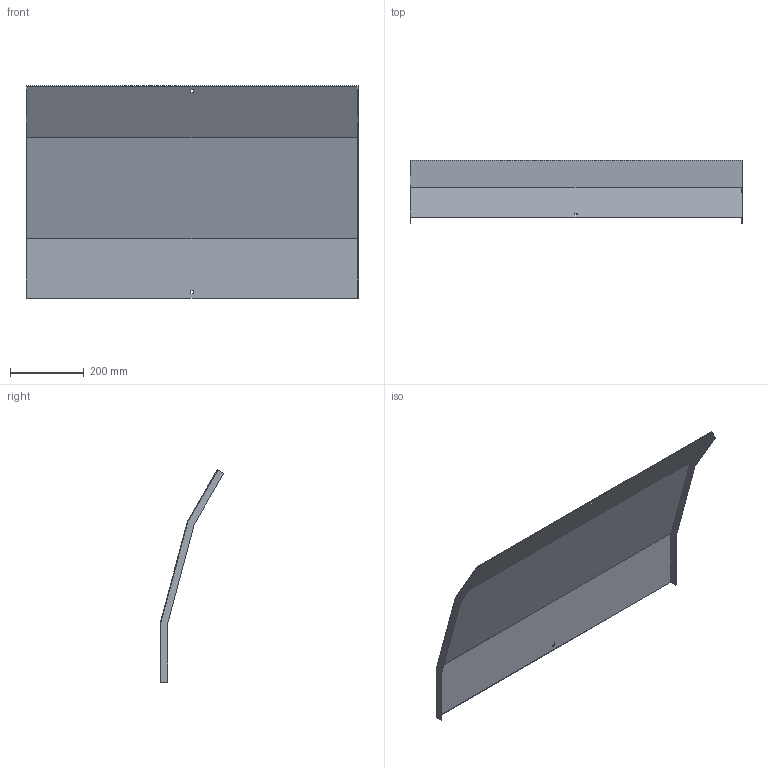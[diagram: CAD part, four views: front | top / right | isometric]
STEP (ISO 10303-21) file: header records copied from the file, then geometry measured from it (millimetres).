
FILE_DESCRIPTION (( 'STEP AP214' ), '1' );
FILE_NAME ('35N5C900.step', '2025-02-21T10:28:53', ( '' ), ( '' ), 'SwSTEP 2.0', 'SolidWorks 2023', '' );
FILE_SCHEMA (( 'AUTOMOTIVE_DESIGN' ));
Length unit declared in the file: millimetre
Products named in the file (1): 35N5C900
Bounding box: 903 x 172.21 x 578.06 mm (x, y, z)
Volume: 858415.7 mm3; surface area: 1149265.5 mm2
Topology: 1 solids, 1 shells, 26 faces, 72 edges, 48 vertices
Faces by surface type: plane 26
Entity records: 847 total; most frequent: CARTESIAN_POINT 147, ORIENTED_EDGE 144, DIRECTION 126, LINE 72, EDGE_CURVE 72, VECTOR 72, VERTEX_POINT 48, EDGE_LOOP 30
